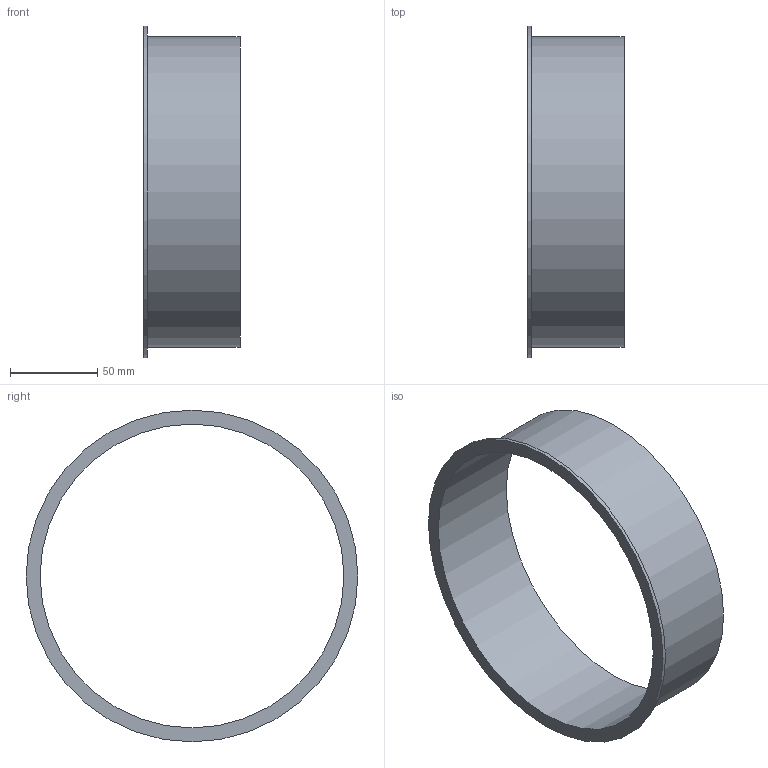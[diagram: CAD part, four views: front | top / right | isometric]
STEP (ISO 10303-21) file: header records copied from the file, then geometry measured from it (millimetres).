
FILE_DESCRIPTION((''),'2;1');
FILE_NAME('U:\Wolfgang\Marcel-3D\fertig\Kapitel 1\1721012.stp','2010-05-31T11:14:49',('TK2'),(''),'Autodesk Inventor 2010','Autodesk Inventor 2010','');
FILE_SCHEMA(('AUTOMOTIVE_DESIGN { 1 0 10303 214 1 1 1 1 }'));
Length unit declared in the file: millimetre
Products named in the file (1): 1721012
Bounding box: 55 x 190 x 190 mm (x, y, z)
Volume: 67757.9 mm3; surface area: 70044.9 mm2
Topology: 1 solids, 1 shells, 6 faces, 9 edges, 6 vertices
Faces by surface type: cylinder 3, plane 3
Full cylindrical faces by diameter (mm): 174 x1, 178 x1, 190 x1
Entity records: 154 total; most frequent: DIRECTION 26, CARTESIAN_POINT 19, AXIS2_PLACEMENT_3D 13, ORIENTED_EDGE 12, EDGE_LOOP 12, VERTEX_POINT 6, CIRCLE 6, EDGE_CURVE 6
